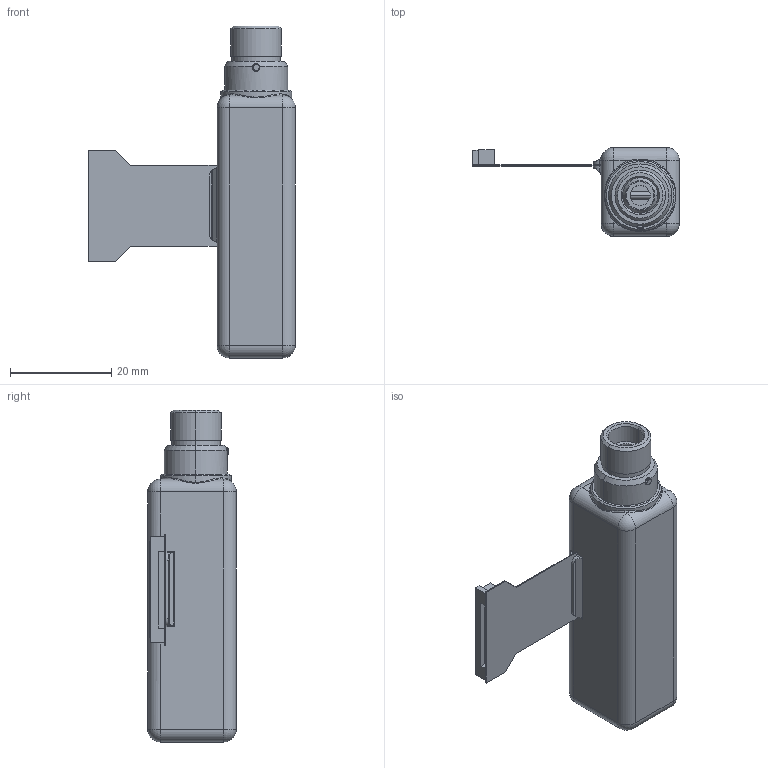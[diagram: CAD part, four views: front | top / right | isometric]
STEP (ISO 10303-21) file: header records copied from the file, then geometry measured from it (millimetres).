
FILE_DESCRIPTION (( 'STEP AP214' ), '1' );
FILE_NAME ('LA12_S10-HOME.STEP', '2026-08-10T05:10:36', ( '' ), ( '' ), 'SwSTEP 2.0', 'SolidWorks 2019', '' );
FILE_SCHEMA (( 'AUTOMOTIVE_DESIGN' ));
Length unit declared in the file: millimetre
Products named in the file (5): LA12_leadscrew-nut; LA12_body+housing; LA12_S10-HOME
Assembly tree (2 placements, depth 2):
  LA12_body+housing
  LA12_leadscrew-nut
  LA12_S10-HOME
    LA12_body+housing
    LA12_leadscrew-nut
Bounding box: 40.9 x 17.5 x 65.69 mm (x, y, z)
Volume: 15354.7 mm3; surface area: 6125.6 mm2
Topology: 4 solids, 4 shells, 156 faces, 378 edges, 225 vertices
Faces by surface type: plane 63, cylinder 54, cone 16, bspline 11, sphere 8, torus 4
Entity records: 8874 total; most frequent: CARTESIAN_POINT 3860, ORIENTED_EDGE 740, DIRECTION 732, EDGE_CURVE 370, AXIS2_PLACEMENT_3D 271, VERTEX_POINT 225, LINE 190, VECTOR 190
